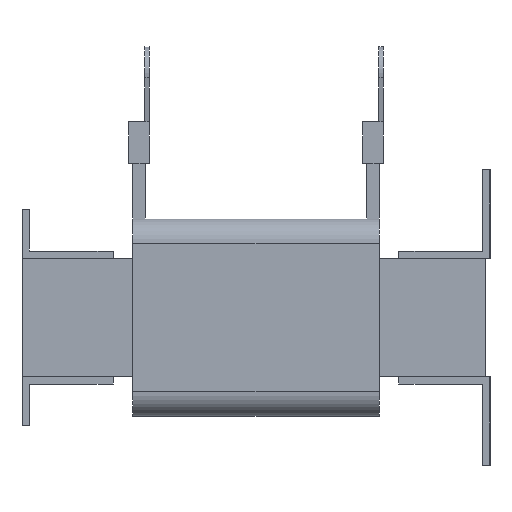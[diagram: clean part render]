
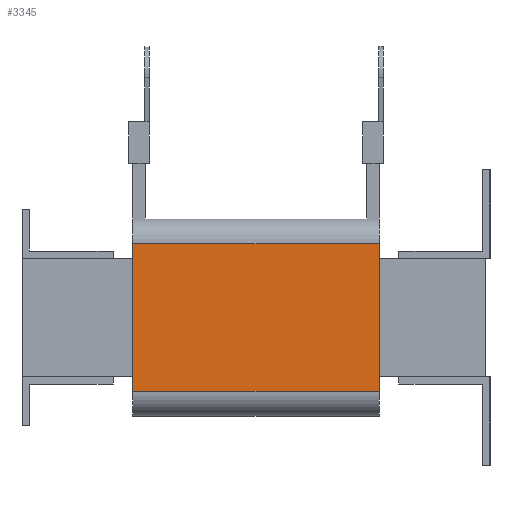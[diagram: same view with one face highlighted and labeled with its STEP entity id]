
A CAD part, left-side view. The second image highlights one B-rep face of the part: STEP entity #3345.
In plain terms, the highlighted planar face has unit normal (-1, 0, 0).
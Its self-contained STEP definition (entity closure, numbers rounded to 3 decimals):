
#199=FACE_OUTER_BOUND('',#397,.T.);
#397=EDGE_LOOP('',(#2397,#2398,#2399,#2400));
#662=LINE('',#4970,#1076);
#680=LINE('',#5021,#1094);
#681=LINE('',#5024,#1095);
#682=LINE('',#5025,#1096);
#1076=VECTOR('',#4009,10.);
#1094=VECTOR('',#4055,10.);
#1095=VECTOR('',#4058,10.);
#1096=VECTOR('',#4059,10.);
#1482=VERTEX_POINT('',#4967);
#1483=VERTEX_POINT('',#4969);
#1502=VERTEX_POINT('',#5019);
#1503=VERTEX_POINT('',#5023);
#1823=EDGE_CURVE('',#1482,#1483,#662,.T.);
#1849=EDGE_CURVE('',#1502,#1482,#680,.T.);
#1850=EDGE_CURVE('',#1502,#1503,#681,.T.);
#1851=EDGE_CURVE('',#1483,#1503,#682,.T.);
#2397=ORIENTED_EDGE('',*,*,#1849,.F.);
#2398=ORIENTED_EDGE('',*,*,#1850,.T.);
#2399=ORIENTED_EDGE('',*,*,#1851,.F.);
#2400=ORIENTED_EDGE('',*,*,#1823,.F.);
#3168=PLANE('',#3611);
#3345=ADVANCED_FACE('',(#199),#3168,.T.);
#3611=AXIS2_PLACEMENT_3D('',#5022,#4056,#4057);
#4009=DIRECTION('',(0.,0.,1.));
#4055=DIRECTION('',(0.,1.,0.));
#4056=DIRECTION('center_axis',(-1.,0.,0.));
#4057=DIRECTION('ref_axis',(0.,0.,1.));
#4058=DIRECTION('',(0.,0.,1.));
#4059=DIRECTION('',(0.,-1.,0.));
#4967=CARTESIAN_POINT('',(-121.,145.,-30.));
#4969=CARTESIAN_POINT('',(-121.,145.,30.));
#4970=CARTESIAN_POINT('',(-121.,145.,-40.));
#5019=CARTESIAN_POINT('',(-121.,45.,-30.));
#5021=CARTESIAN_POINT('',(-121.,45.,-30.));
#5022=CARTESIAN_POINT('Origin',(-121.,45.,-40.));
#5023=CARTESIAN_POINT('',(-121.,45.,30.));
#5024=CARTESIAN_POINT('',(-121.,45.,-40.));
#5025=CARTESIAN_POINT('',(-121.,45.,30.));
